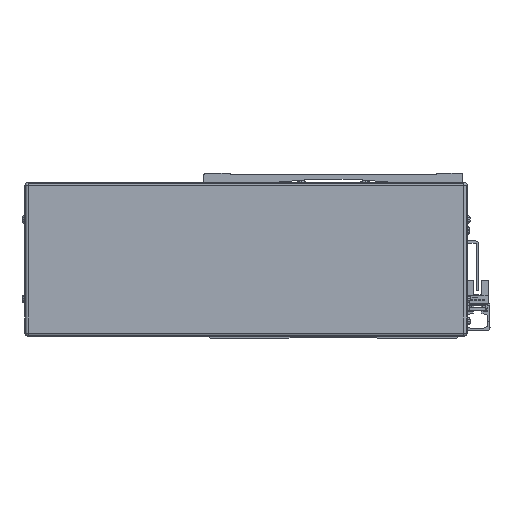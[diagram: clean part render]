
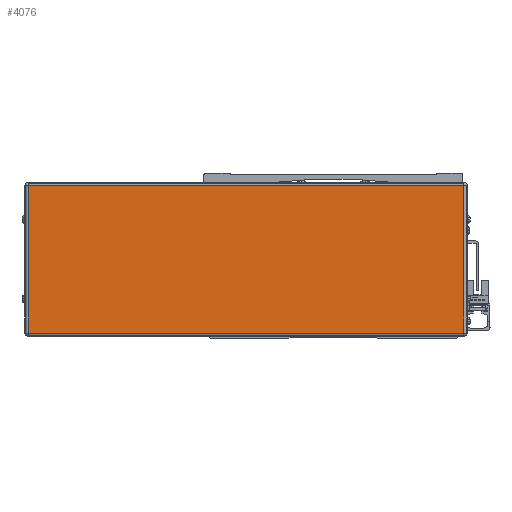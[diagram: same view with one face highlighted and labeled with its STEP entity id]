
A CAD part, front view. The second image highlights one B-rep face of the part: STEP entity #4076.
In plain terms, the highlighted planar face has unit normal (0, -1, 0).
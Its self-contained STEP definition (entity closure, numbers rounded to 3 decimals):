
#4076=ADVANCED_FACE('',(#10085),#10086,.F.);
#10085=FACE_OUTER_BOUND('',#18764,.T.);
#10086=PLANE('',#18765);
#18764=EDGE_LOOP('',(#32253,#32254,#32255,#32256));
#18765=AXIS2_PLACEMENT_3D('',#32257,#32258,#32259);
#32253=ORIENTED_EDGE('',*,*,#54578,.T.);
#32254=ORIENTED_EDGE('',*,*,#54579,.T.);
#32255=ORIENTED_EDGE('',*,*,#54580,.T.);
#32256=ORIENTED_EDGE('',*,*,#54581,.T.);
#32257=CARTESIAN_POINT('',(-655.,-272.778,-2.));
#32258=DIRECTION('',(0.,1.0,0.));
#32259=DIRECTION('',(-1.0,0.,0.));
#54578=EDGE_CURVE('',#66441,#66442,#66443,.T.);
#54579=EDGE_CURVE('',#66442,#66444,#66445,.T.);
#54580=EDGE_CURVE('',#66444,#66446,#66447,.T.);
#54581=EDGE_CURVE('',#66446,#66441,#66448,.T.);
#66441=VERTEX_POINT('',#82795);
#66442=VERTEX_POINT('',#82796);
#66443=LINE('',#82797,#82798);
#66444=VERTEX_POINT('',#82799);
#66445=LINE('',#82800,#82801);
#66446=VERTEX_POINT('',#82802);
#66447=LINE('',#82803,#82804);
#66448=LINE('',#82805,#82806);
#82795=CARTESIAN_POINT('',(-517.9,-272.778,44.5));
#82796=CARTESIAN_POINT('',(-792.1,-272.778,44.5));
#82797=CARTESIAN_POINT('',(-655.,-272.778,44.5));
#82798=VECTOR('',#100094,10.0);
#82799=CARTESIAN_POINT('',(-792.1,-272.778,-48.5));
#82800=CARTESIAN_POINT('',(-792.1,-272.778,-2.));
#82801=VECTOR('',#100095,10.0);
#82802=CARTESIAN_POINT('',(-517.9,-272.778,-48.5));
#82803=CARTESIAN_POINT('',(-655.,-272.778,-48.5));
#82804=VECTOR('',#100096,10.0);
#82805=CARTESIAN_POINT('',(-517.9,-272.778,-2.));
#82806=VECTOR('',#100097,10.0);
#100094=DIRECTION('',(-1.0,0.,0.));
#100095=DIRECTION('',(0.,0.,-1.0));
#100096=DIRECTION('',(1.0,0.,0.));
#100097=DIRECTION('',(0.,0.,1.0));
